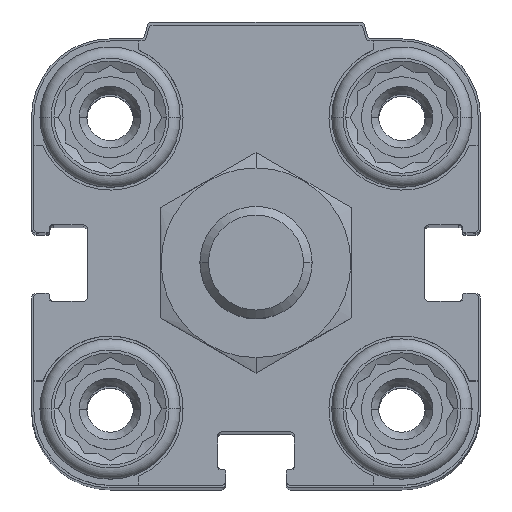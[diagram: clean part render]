
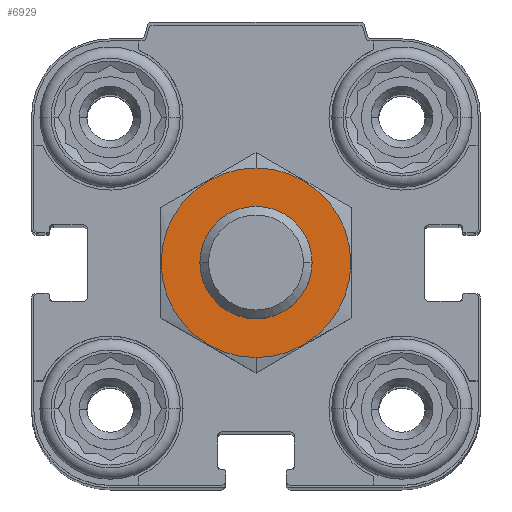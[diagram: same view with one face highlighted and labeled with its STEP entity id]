
A CAD part, top view. The second image highlights one B-rep face of the part: STEP entity #6929.
In plain terms, the highlighted planar face has unit normal (0, 0, 1).
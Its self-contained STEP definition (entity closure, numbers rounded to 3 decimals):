
#198 = ORIENTED_EDGE ( 'NONE', *, *, #3471, .F. ) ;
#700 = CARTESIAN_POINT ( 'NONE',  ( 0., 5., 14.5 ) ) ;
#1027 = EDGE_CURVE ( 'NONE', #8546, #18170, #2650, .T. ) ;
#2455 = EDGE_LOOP ( 'NONE', ( #198, #2663 ) ) ;
#2650 = CIRCLE ( 'NONE', #12049, 5. ) ;
#2663 = ORIENTED_EDGE ( 'NONE', *, *, #11498, .F. ) ;
#2716 = EDGE_CURVE ( 'NONE', #18170, #8546, #11916, .T. ) ;
#2719 = CARTESIAN_POINT ( 'NONE',  ( 0., 0., 14.5 ) ) ;
#3471 = EDGE_CURVE ( 'NONE', #11586, #11923, #12665, .T. ) ;
#4153 = ORIENTED_EDGE ( 'NONE', *, *, #2716, .T. ) ;
#4349 = PLANE ( 'NONE',  #5105 ) ;
#4755 = CARTESIAN_POINT ( 'NONE',  ( 0., -5., 14.5 ) ) ;
#5105 = AXIS2_PLACEMENT_3D ( 'NONE', #2719, #8707, #19554 ) ;
#5138 = DIRECTION ( 'NONE',  ( 0., -1., 0. ) ) ;
#5652 = CARTESIAN_POINT ( 'NONE',  ( 0., 0., 14.5 ) ) ;
#6929 = ADVANCED_FACE ( 'NONE', ( #18247, #7396 ), #4349, .F. ) ;
#7130 = EDGE_LOOP ( 'NONE', ( #7936, #4153 ) ) ;
#7396 = FACE_BOUND ( 'NONE', #7130, .T. ) ;
#7936 = ORIENTED_EDGE ( 'NONE', *, *, #1027, .T. ) ;
#8546 = VERTEX_POINT ( 'NONE', #700 ) ;
#8707 = DIRECTION ( 'NONE',  ( 0., 0., -1. ) ) ;
#10614 = DIRECTION ( 'NONE',  ( 0., -1., 0. ) ) ;
#10943 = AXIS2_PLACEMENT_3D ( 'NONE', #5652, #11828, #10614 ) ;
#11396 = CIRCLE ( 'NONE', #16597, 8.45 ) ;
#11498 = EDGE_CURVE ( 'NONE', #11923, #11586, #11396, .T. ) ;
#11586 = VERTEX_POINT ( 'NONE', #19562 ) ;
#11634 = DIRECTION ( 'NONE',  ( 0., -1., 0. ) ) ;
#11828 = DIRECTION ( 'NONE',  ( 0., 0., -1. ) ) ;
#11916 = CIRCLE ( 'NONE', #10943, 5. ) ;
#11923 = VERTEX_POINT ( 'NONE', #19518 ) ;
#12049 = AXIS2_PLACEMENT_3D ( 'NONE', #13166, #19355, #11634 ) ;
#12665 = CIRCLE ( 'NONE', #18181, 8.45 ) ;
#13166 = CARTESIAN_POINT ( 'NONE',  ( 0., 0., 14.5 ) ) ;
#16086 = CARTESIAN_POINT ( 'NONE',  ( 0., 0., 14.5 ) ) ;
#16421 = CARTESIAN_POINT ( 'NONE',  ( 0., 0., 14.5 ) ) ;
#16597 = AXIS2_PLACEMENT_3D ( 'NONE', #16421, #17842, #16632 ) ;
#16632 = DIRECTION ( 'NONE',  ( 0., -1., 0. ) ) ;
#17842 = DIRECTION ( 'NONE',  ( 0., 0., -1. ) ) ;
#18170 = VERTEX_POINT ( 'NONE', #4755 ) ;
#18181 = AXIS2_PLACEMENT_3D ( 'NONE', #16086, #19031, #5138 ) ;
#18247 = FACE_OUTER_BOUND ( 'NONE', #2455, .T. ) ;
#19031 = DIRECTION ( 'NONE',  ( 0., 0., -1. ) ) ;
#19355 = DIRECTION ( 'NONE',  ( 0., 0., -1. ) ) ;
#19518 = CARTESIAN_POINT ( 'NONE',  ( 0., 8.45, 14.5 ) ) ;
#19554 = DIRECTION ( 'NONE',  ( 0., -1., 0. ) ) ;
#19562 = CARTESIAN_POINT ( 'NONE',  ( 0., -8.45, 14.5 ) ) ;
